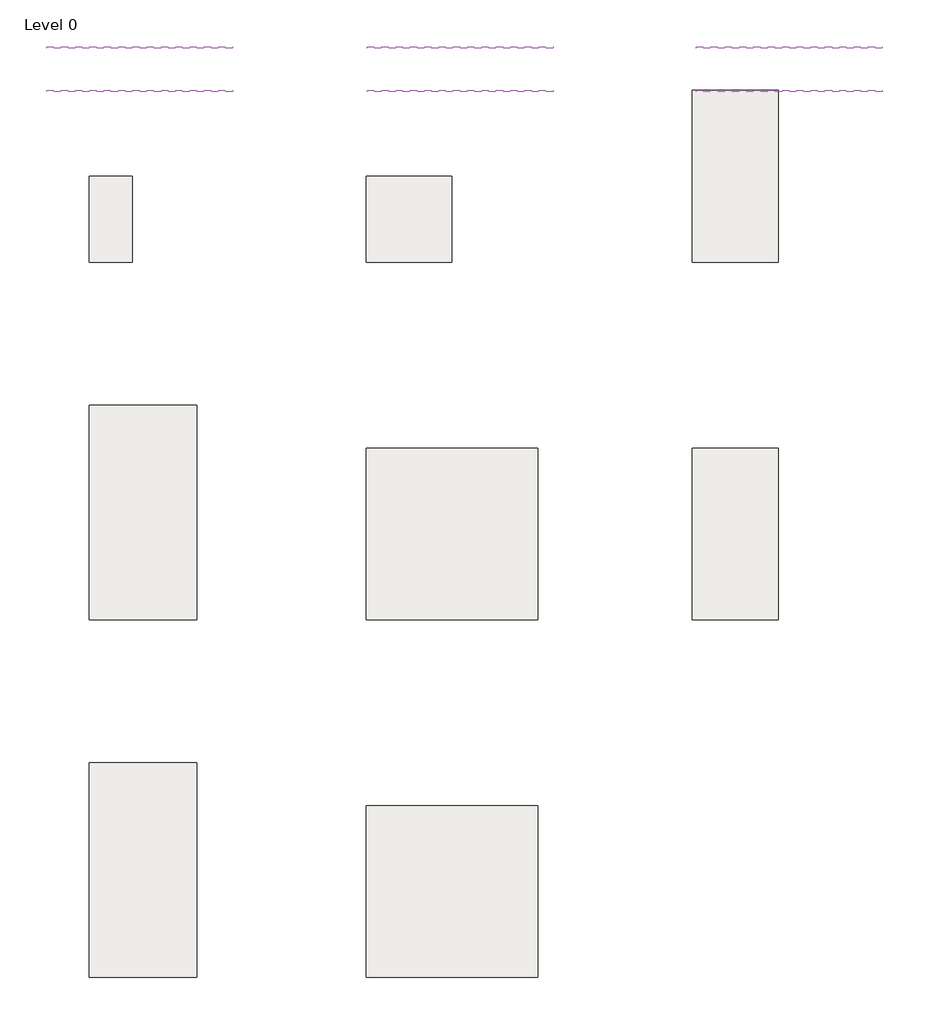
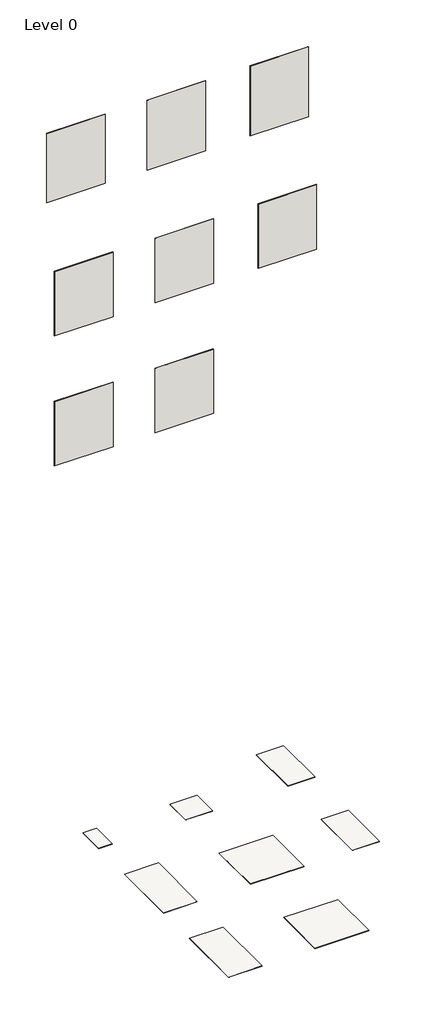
# One storey: 8 slabs, 8 walls.
"""IFC4 building model written with IfcOpenShell, lengths in millimetres."""

from ifc_helpers import new_model, si_unit, frame, origin, place, context, project, spatial, polyline, outline, extrude, element, save

model = new_model("IFC4")

# Units and contexts
model_context = context("Model", 3, world=origin())
ifc_project = project(units=[si_unit("LENGTHUNIT", "METRE", prefix="MILLI")], contexts=[model_context])

# Site, building, storey
site = spatial("IfcSite", under=ifc_project)
building = spatial("IfcBuilding", under=site)
storey = spatial("IfcBuildingStorey", under=building, Name="Level 0", Elevation=0.0)

# Slabs
placement = place(None, origin())
element("IfcSlab", 1, ObjectType="Floor_Tiles_Refin-Etherea-Sand-30x60 RJ93", at=placement, inside=storey, context=model_context, shape_type="SweptSolid", body=[
    extrude(outline(polyline([(6974.3752062, 7239.4623743), (6974.3752062, 6639.4623743), (6674.3752062, 6639.4623743), (6674.3752062, 7239.4623743), (6974.3752062, 7239.4623743)])), frame((0.0, 0.0, -10.0), z_axis=(0.0, 0.0, 1.0), x_axis=(1.0, 0.0, 0.0)), (0.0, 0.0, 1.0), 10.0),
])
element("IfcSlab", 2, ObjectType="Floor_Tiles_Refin-Etherea-Sand-60x60 RJ88", at=placement, inside=storey, context=model_context, shape_type="SweptSolid", body=[
    extrude(outline(polyline([(9207.3924055, 7239.4623743), (9207.3924055, 6639.4623743), (8607.3924055, 6639.4623743), (8607.3924055, 7239.4623743), (9207.3924055, 7239.4623743)])), frame((0.0, 0.0, -10.0), z_axis=(0.0, 0.0, 1.0), x_axis=(1.0, 0.0, 0.0)), (0.0, 0.0, 1.0), 10.0),
])
element("IfcSlab", 3, ObjectType="Floor_Tiles_Refin-Etherea-Sand-60x120 RJ73", at=placement, inside=storey, context=model_context, shape_type="SweptSolid", body=[
    extrude(outline(polyline([(11487.1861419, 7839.4623743), (11487.1861419, 6639.4623743), (10887.1861419, 6639.4623743), (10887.1861419, 7839.4623743), (11487.1861419, 7839.4623743)])), frame((0.0, 0.0, -10.0), z_axis=(0.0, 0.0, 1.0), x_axis=(1.0, 0.0, 0.0)), (0.0, 0.0, 1.0), 10.0),
])
element("IfcSlab", 4, ObjectType="Floor_Tiles_Refin-Etherea-Sand-75x150 RK17", at=placement, inside=storey, context=model_context, shape_type="SweptSolid", body=[
    extrude(outline(polyline([(7424.3752062, 5639.4623743), (7424.3752062, 4139.4623743), (6674.3752062, 4139.4623743), (6674.3752062, 5639.4623743), (7424.3752062, 5639.4623743)])), frame((0.0, 0.0, -10.0), z_axis=(0.0, 0.0, 1.0), x_axis=(1.0, 0.0, 0.0)), (0.0, 0.0, 1.0), 10.0),
])
element("IfcSlab", 5, ObjectType="Floor_Tiles_Refin-Etherea-Sand-120x120 RJ67", at=placement, inside=storey, context=model_context, shape_type="SweptSolid", body=[
    extrude(outline(polyline([(9807.3924055, 5339.4623743), (9807.3924055, 4139.4623743), (8607.3924055, 4139.4623743), (8607.3924055, 5339.4623743), (9807.3924055, 5339.4623743)])), frame((0.0, 0.0, -10.0), z_axis=(0.0, 0.0, 1.0), x_axis=(1.0, 0.0, 0.0)), (0.0, 0.0, 1.0), 10.0),
])
element("IfcSlab", 6, ObjectType="Floor_Tiles_Refin-Etherea-Sand-C2-GRIP-60x120 RN18", at=placement, inside=storey, context=model_context, shape_type="SweptSolid", body=[
    extrude(outline(polyline([(11487.1861419, 5339.4623743), (11487.1861419, 4139.4623743), (10887.1861419, 4139.4623743), (10887.1861419, 5339.4623743), (11487.1861419, 5339.4623743)])), frame((0.0, 0.0, -10.0), z_axis=(0.0, 0.0, 1.0), x_axis=(1.0, 0.0, 0.0)), (0.0, 0.0, 1.0), 10.0),
])
element("IfcSlab", 7, ObjectType="Floor_Tiles_Refin-Etherea-Sand-Lucido-75x150 RK22", at=placement, inside=storey, context=model_context, shape_type="SweptSolid", body=[
    extrude(outline(polyline([(7424.3752062, 3139.4623743), (7424.3752062, 1639.4623743), (6674.3752062, 1639.4623743), (6674.3752062, 3139.4623743), (7424.3752062, 3139.4623743)])), frame((0.0, 0.0, -10.0), z_axis=(0.0, 0.0, 1.0), x_axis=(1.0, 0.0, 0.0)), (0.0, 0.0, 1.0), 10.0),
])
element("IfcSlab", 8, ObjectType="Floor_Tiles_Refin-Etherea-Sand-Lucido-120x120 RJ65", at=placement, inside=storey, context=model_context, shape_type="SweptSolid", body=[
    extrude(outline(polyline([(9807.3924055, 2839.4623743), (9807.3924055, 1639.4623743), (8607.3924055, 1639.4623743), (8607.3924055, 2839.4623743), (9807.3924055, 2839.4623743)])), frame((0.0, 0.0, -10.0), z_axis=(0.0, 0.0, 1.0), x_axis=(1.0, 0.0, 0.0)), (0.0, 0.0, 1.0), 10.0),
])

# Walls
element("IfcWall", 9, ObjectType="Wall_Tiles_Refin-Etherea-Sand-60x60 RJ88", at=placement, inside=storey, context=model_context, shape_type="SweptSolid", body=[
    extrude(outline(polyline([(9914.3752062, 8132.3838631), (8614.3752062, 8132.3838631), (8614.3752062, 8142.3838631), (9914.3752062, 8142.3838631), (9914.3752062, 8132.3838631)])), frame((0.0, 0.0, 14387.6770443), z_axis=(0.0, 0.0, 1.0), x_axis=(1.0, 0.0, 0.0)), (0.0, 0.0, 1.0), 1641.7417352),
])
element("IfcWall", 10, ObjectType="Wall_Tiles_Refin-Etherea-Sand-60x120 RJ73", at=placement, inside=storey, context=model_context, shape_type="SweptSolid", body=[
    extrude(outline(polyline([(12214.3752062, 8132.3838631), (10914.3752062, 8132.3838631), (10914.3752062, 8142.3838631), (12214.3752062, 8142.3838631), (12214.3752062, 8132.3838631)])), frame((0.0, 0.0, 14387.6770443), z_axis=(0.0, 0.0, 1.0), x_axis=(1.0, 0.0, 0.0)), (0.0, 0.0, 1.0), 1641.7417352),
])
element("IfcWall", 11, ObjectType="Wall_Tiles_Refin-Etherea-Sand-30x60 RJ93", at=placement, inside=storey, context=model_context, shape_type="SweptSolid", body=[
    extrude(outline(polyline([(7674.3752062, 8132.3838631), (6374.3752062, 8132.3838631), (6374.3752062, 8142.3838631), (7674.3752062, 8142.3838631), (7674.3752062, 8132.3838631)])), frame((0.0, 0.0, 14403.7267346), z_axis=(0.0, 0.0, 1.0), x_axis=(1.0, 0.0, 0.0)), (0.0, 0.0, 1.0), 1625.692045),
])
element("IfcWall", 12, ObjectType="Wall_Tiles_Refin-Etherea-Sand-75x150 RK17", at=placement, inside=storey, context=model_context, shape_type="SweptSolid", body=[
    extrude(outline(polyline([(7674.3752062, 7827.3838631), (6374.3752062, 7827.3838631), (6374.3752062, 7837.3838631), (7674.3752062, 7837.3838631), (7674.3752062, 7827.3838631)])), frame((0.0, 0.0, 11452.5436262), z_axis=(0.0, 0.0, 1.0), x_axis=(1.0, 0.0, 0.0)), (0.0, 0.0, 1.0), 1513.1985566),
])
element("IfcWall", 13, ObjectType="Wall_Tiles_Refin-Etherea-Sand-120x120 RJ67", at=placement, inside=storey, context=model_context, shape_type="SweptSolid", body=[
    extrude(outline(polyline([(9914.3752062, 7827.3838631), (8614.3752062, 7827.3838631), (8614.3752062, 7837.3838631), (9914.3752062, 7837.3838631), (9914.3752062, 7827.3838631)])), frame((0.0, 0.0, 11452.5436262), z_axis=(0.0, 0.0, 1.0), x_axis=(1.0, 0.0, 0.0)), (0.0, 0.0, 1.0), 1513.1985566),
])
element("IfcWall", 14, ObjectType="Wall_Tiles_Refin-Etherea-Sand-C2-GRIP-60x120 RN18", at=placement, inside=storey, context=model_context, shape_type="SweptSolid", body=[
    extrude(outline(polyline([(12214.3752062, 7827.3838631), (10914.3752062, 7827.3838631), (10914.3752062, 7837.3838631), (12214.3752062, 7837.3838631), (12214.3752062, 7827.3838631)])), frame((0.0, 0.0, 11452.5436262), z_axis=(0.0, 0.0, 1.0), x_axis=(1.0, 0.0, 0.0)), (0.0, 0.0, 1.0), 1513.1985566),
])
element("IfcWall", 15, ObjectType="Wall_Tiles_Refin-Etherea-Sand-Lucido-75x150 RK22", at=placement, inside=storey, context=model_context, shape_type="SweptSolid", body=[
    extrude(outline(polyline([(7674.3752062, 7827.3838631), (6374.3752062, 7827.3838631), (6374.3752062, 7837.3838631), (7674.3752062, 7837.3838631), (7674.3752062, 7827.3838631)])), frame((0.0, 0.0, 8388.8670295), z_axis=(0.0, 0.0, 1.0), x_axis=(1.0, 0.0, 0.0)), (0.0, 0.0, 1.0), 1513.1985566),
])
element("IfcWall", 16, ObjectType="Wall_Tiles_Refin-Etherea-Sand-Lucido-120x120 RJ65", at=placement, inside=storey, context=model_context, shape_type="SweptSolid", body=[
    extrude(outline(polyline([(9914.3752062, 7827.3838631), (8614.3752062, 7827.3838631), (8614.3752062, 7837.3838631), (9914.3752062, 7837.3838631), (9914.3752062, 7827.3838631)])), frame((0.0, 0.0, 8388.8670295), z_axis=(0.0, 0.0, 1.0), x_axis=(1.0, 0.0, 0.0)), (0.0, 0.0, 1.0), 1513.1985566),
])

save(model, "model.ifc")
